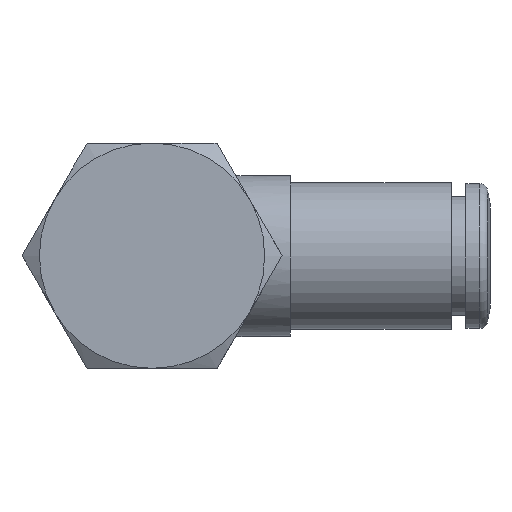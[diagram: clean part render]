
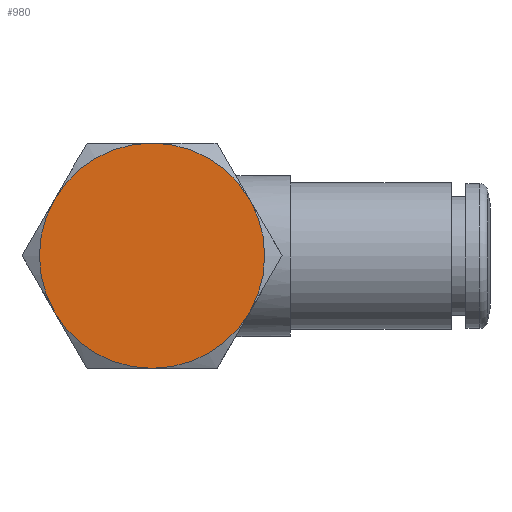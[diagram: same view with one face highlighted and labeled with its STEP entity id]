
A CAD part, top view. The second image highlights one B-rep face of the part: STEP entity #980.
In plain terms, the highlighted planar face has unit normal (0, 0, 1).
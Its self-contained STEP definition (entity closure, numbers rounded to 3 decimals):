
#980=ADVANCED_FACE('', (#990), #1000, .T.);
#4980=AXIS2_PLACEMENT_3D('Ax2Pl3d', #4990, #5000, #5010);
#5060=AXIS2_PLACEMENT_3D('Ax2Pl3d', #5070, #5080, #5090);
#5140=AXIS2_PLACEMENT_3D('Ax2Pl3d', #5150, #5160, #5170);
#5220=AXIS2_PLACEMENT_3D('Ax2Pl3d', #5230, #5240, #5250);
#5300=AXIS2_PLACEMENT_3D('Ax2Pl3d', #5310, #5320, #5330);
#5380=AXIS2_PLACEMENT_3D('Ax2Pl3d', #5390, #5400, #5410);
#5420=AXIS2_PLACEMENT_3D('Ax2Pl3d', #5430, #5440, #5450);
#52150=CARTESIAN_POINT('', (6.963,15.653,28.112));
#52330=CARTESIAN_POINT('', (13.025,19.153,28.112));
#52360=CARTESIAN_POINT('', (19.088,15.653,28.112));
#52390=CARTESIAN_POINT('', (19.088,8.653,28.112));
#52420=CARTESIAN_POINT('', (13.025,5.153,28.112));
#52450=CARTESIAN_POINT('', (6.963,8.653,28.112));
#4990=CARTESIAN_POINT('HicPkt', (13.025,12.153,
28.112));
#5070=CARTESIAN_POINT('HicPkt', (13.025,12.153,
28.112));
#5150=CARTESIAN_POINT('HicPkt', (13.025,12.153,
28.112));
#5230=CARTESIAN_POINT('HicPkt', (13.025,12.153,
28.112));
#5310=CARTESIAN_POINT('HicPkt', (13.025,12.153,
28.112));
#5390=CARTESIAN_POINT('HicPkt', (13.025,12.153,
28.112));
#5430=CARTESIAN_POINT('HicPkt', (19.088,8.653,
28.112));
#53430=CIRCLE('Circle', #4980, 7.);
#53440=CIRCLE('Circle', #5060, 7.);
#53450=CIRCLE('Circle', #5140, 7.);
#53460=CIRCLE('Circle', #5220, 7.);
#53470=CIRCLE('Circle', #5300, 7.);
#53480=CIRCLE('Circle', #5380, 7.);
#5000=DIRECTION('Axis', (0.,0.,-1.));
#5010=DIRECTION('RefDirection', (-1.,-0.,0.));
#5080=DIRECTION('Axis', (0.,0.,-1.));
#5090=DIRECTION('RefDirection', (-1.,-0.,0.));
#5160=DIRECTION('Axis', (0.,0.,-1.));
#5170=DIRECTION('RefDirection', (-1.,-0.,0.));
#5240=DIRECTION('Axis', (0.,0.,-1.));
#5250=DIRECTION('RefDirection', (-1.,-0.,0.));
#5320=DIRECTION('Axis', (0.,0.,-1.));
#5330=DIRECTION('RefDirection', (-1.,-0.,0.));
#5400=DIRECTION('Axis', (0.,0.,-1.));
#5410=DIRECTION('RefDirection', (-1.,-0.,0.));
#5440=DIRECTION('Axis', (0.,0.,1.));
#5450=DIRECTION('RefDirection', (1.,0.,-0.));
#59350=EDGE_CURVE('', #59330, #58800, #53430, .T.);
#59360=EDGE_CURVE('', #58800, #59090, #53440, .T.);
#59370=EDGE_CURVE('', #59090, #59150, #53450, .T.);
#59380=EDGE_CURVE('', #59150, #59210, #53460, .T.);
#59390=EDGE_CURVE('', #59210, #59270, #53470, .T.);
#59400=EDGE_CURVE('', #59270, #59330, #53480, .T.);
#62220=EDGE_LOOP('Edge_loop', (#62230,#62240,#62250,#62260,#62270,
#62280));
#990=FACE_OUTER_BOUND('Face_outer_bound', #62220, .T.);
#62230=ORIENTED_EDGE('', *, *, #59390, .F.);
#62240=ORIENTED_EDGE('', *, *, #59380, .F.);
#62250=ORIENTED_EDGE('', *, *, #59370, .F.);
#62260=ORIENTED_EDGE('', *, *, #59360, .F.);
#62270=ORIENTED_EDGE('', *, *, #59350, .F.);
#62280=ORIENTED_EDGE('', *, *, #59400, .F.);
#1000=PLANE('Plane', #5420);
#58800=VERTEX_POINT('', #52150);
#59090=VERTEX_POINT('', #52330);
#59150=VERTEX_POINT('', #52360);
#59210=VERTEX_POINT('', #52390);
#59270=VERTEX_POINT('', #52420);
#59330=VERTEX_POINT('', #52450);
